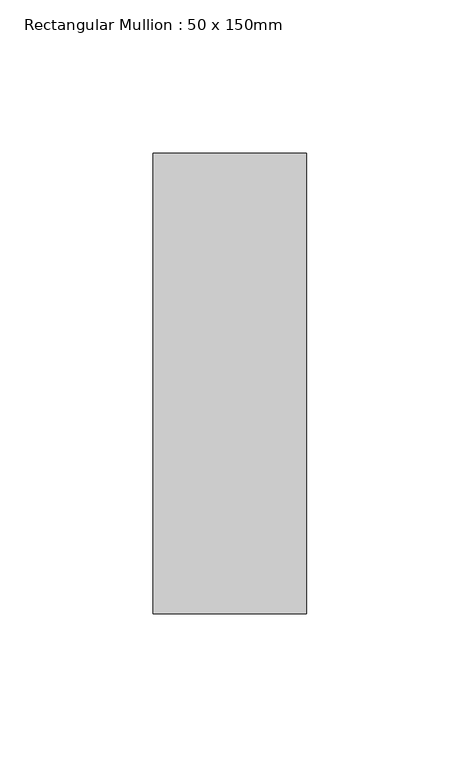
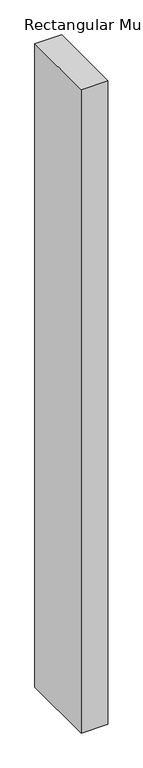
"""IFC4 building model written with IfcOpenShell, lengths in millimetres: member geometry, Rectangular Mullion : 50 x 150mm."""

from ifc_helpers import new_model, si_unit, frame, origin, place, context, project, spatial, polyline, outline, extrude, source, transform, mapped, element, save


def rectangular_mullion_50_x_150mm_52791127(model_context):
    return source(origin(), model_context, "Body", "SweptSolid", [
        extrude(outline(polyline([(25.0, 75.0), (25.0, -75.0), (-25.0, -75.0), (-25.0, 75.0), (25.0, 75.0)])), frame((0.0, 0.0, -1278.3202354), z_axis=(0.0, 0.0, 1.0), x_axis=(1.0, 0.0, 0.0)), (0.0, 0.0, 1.0), 1278.3202354),
    ])


if __name__ == "__main__":
    model = new_model("IFC4")
    model_context = context("Model", 3, world=origin())
    ifc_project = project(units=[si_unit("LENGTHUNIT", "METRE", prefix="MILLI")], contexts=[model_context])
    site = spatial("IfcSite", under=ifc_project)
    building = spatial("IfcBuilding", under=site)
    placement = place(None, origin())
    rectangular_mullion_50_x_150mm_shape = rectangular_mullion_50_x_150mm_52791127(model_context)
    element("IfcMember", 1, ObjectType="Rectangular Mullion : 50 x 150mm", at=placement, inside=building, context=model_context, shape_type="MappedRepresentation", body=[
        mapped(rectangular_mullion_50_x_150mm_shape, transform((0.0, 0.0, 0.0), x_axis=(1.0, 0.0, 0.0), y_axis=(0.0, 1.0, 0.0), z_axis=(0.0, 0.0, 1.0))),
    ])
    save(model, "model.ifc")
